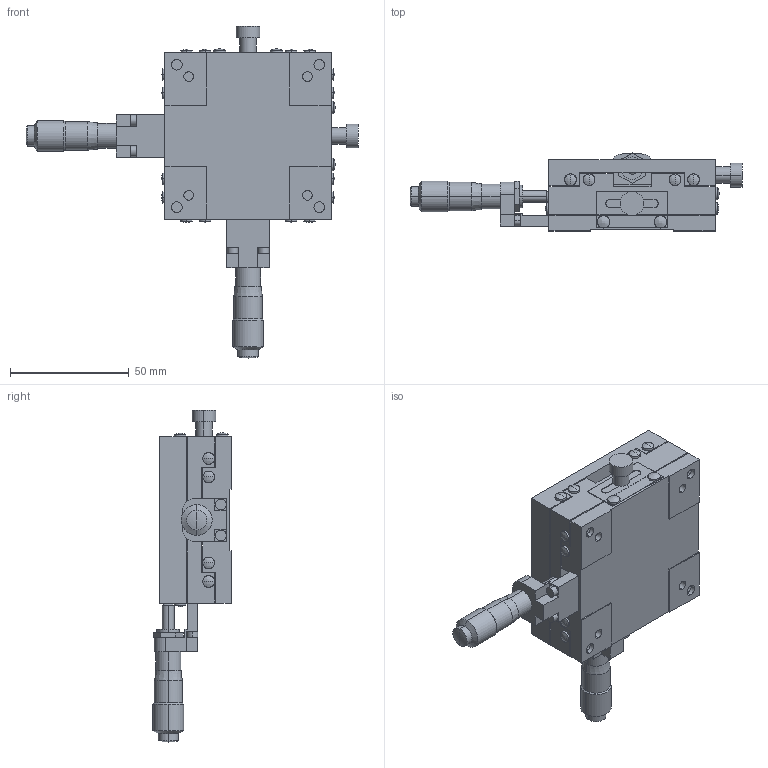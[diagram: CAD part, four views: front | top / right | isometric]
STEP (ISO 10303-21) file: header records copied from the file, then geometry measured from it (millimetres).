
FILE_DESCRIPTION (( 'STEP AP203' ), '1' );
FILE_NAME ('LD-7047-C1.STEP', '2011-08-10T05:12:04', ( '' ), ( '' ), 'SwSTEP 2.0', 'SolidWorks 2011', '' );
FILE_SCHEMA (( 'CONFIG_CONTROL_DESIGN' ));
Length unit declared in the file: millimetre
Products named in the file (4): LD-7047-C1; LD-7047-C1-3; LD-7047-C1-2; LD-7047-C1-1
Assembly tree (3 placements, depth 2):
  LD-7047-C1
    LD-7047-C1-1
    LD-7047-C1-2
    LD-7047-C1-3
Bounding box: 139.8 x 33 x 139.8 mm (x, y, z)
Volume: 142077.9 mm3; surface area: 55375.9 mm2
Topology: 5 solids, 9 shells, 382 faces, 900 edges, 568 vertices
Faces by surface type: plane 158, cylinder 120, cone 60, sphere 36, bspline 4, torus 4
Entity records: 12174 total; most frequent: CARTESIAN_POINT 2700, DIRECTION 1996, ORIENTED_EDGE 1776, EDGE_CURVE 888, AXIS2_PLACEMENT_3D 740, VERTEX_POINT 568, LINE 516, VECTOR 516
